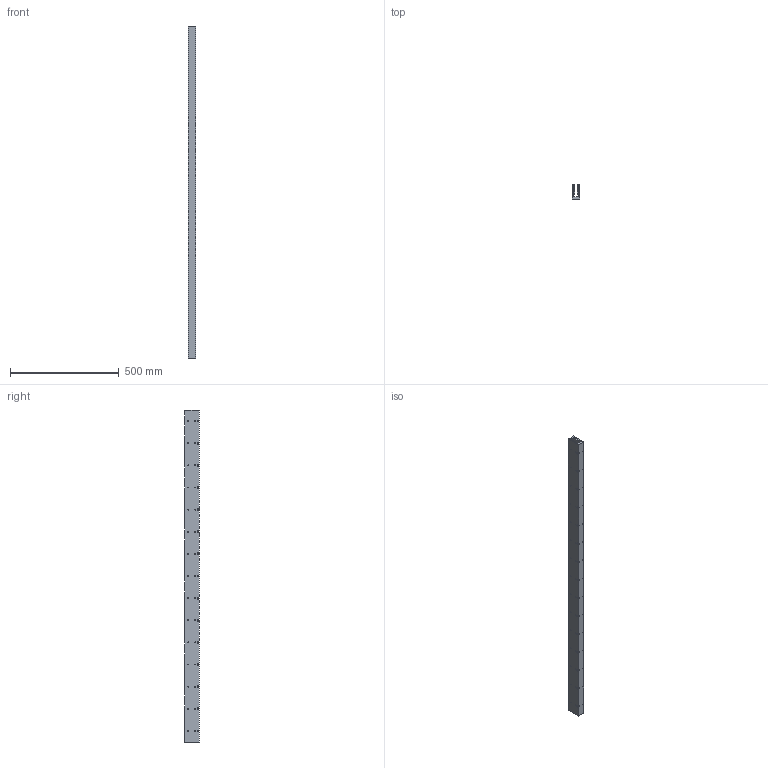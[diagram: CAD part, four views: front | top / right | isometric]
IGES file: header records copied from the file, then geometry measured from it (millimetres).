
Global section: file name: No Iges File Name specified; native system: Autodesk Inventor 2009; preprocessor: AutoDesk Inventor Iges Exporter R2009; author: je17857; date: 20091116.111750; units: inch
Bounding box: 34.29 x 67.31 x 1524 mm (x, y, z)
Volume: 2278627.7 mm3; surface area: 572756.8 mm2
Topology: 1 solids, 1 shells, 770 faces, 1854 edges, 1236 vertices
Faces by surface type: plane 530, bspline 240
